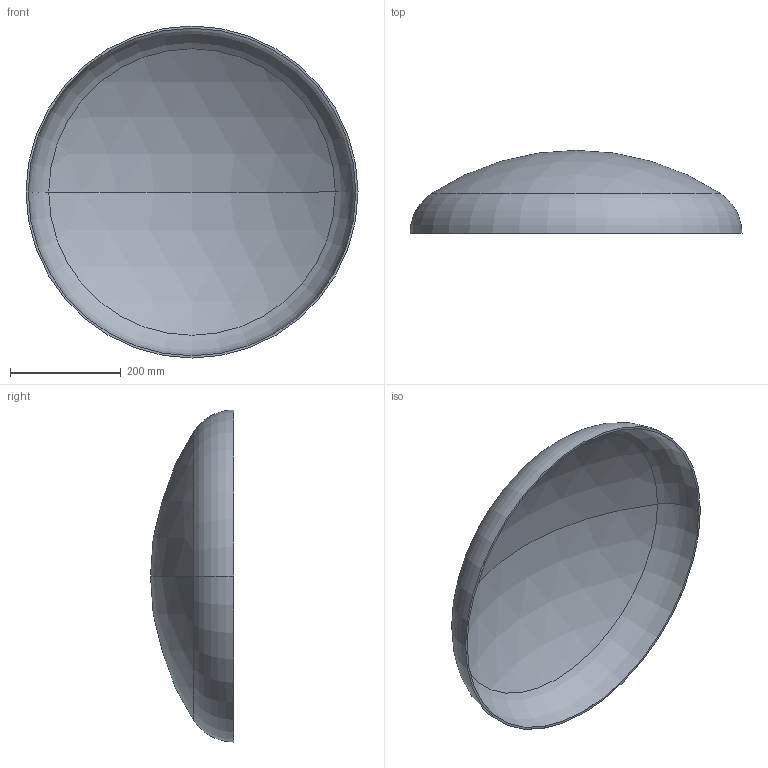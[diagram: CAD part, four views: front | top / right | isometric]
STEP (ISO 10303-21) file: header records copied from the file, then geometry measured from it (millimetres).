
FILE_DESCRIPTION (( 'STEP AP203' ), '1' );
FILE_NAME ('3D_R365_600x4_173374560.STEP', '2024-07-16T07:31:35', ( '' ), ( '' ), 'SwSTEP 2.0', 'SolidWorks 2024', '' );
FILE_SCHEMA (( 'CONFIG_CONTROL_DESIGN' ));
Length unit declared in the file: millimetre
Products named in the file (1): 3D_R365_600x4_173374560
Bounding box: 600 x 150 x 600 mm (x, y, z)
Volume: 1521882.2 mm3; surface area: 768463.8 mm2
Topology: 1 solids, 1 shells, 13 faces, 24 edges, 14 vertices
Faces by surface type: sphere 4, torus 4, cylinder 4, plane 1
Entity records: 407 total; most frequent: DIRECTION 72, CARTESIAN_POINT 52, ORIENTED_EDGE 48, AXIS2_PLACEMENT_3D 34, EDGE_CURVE 24, CIRCLE 20, VERTEX_POINT 14, EDGE_LOOP 14
